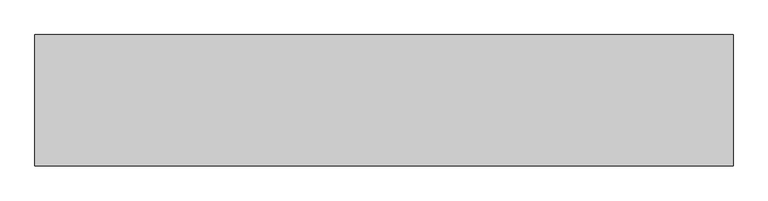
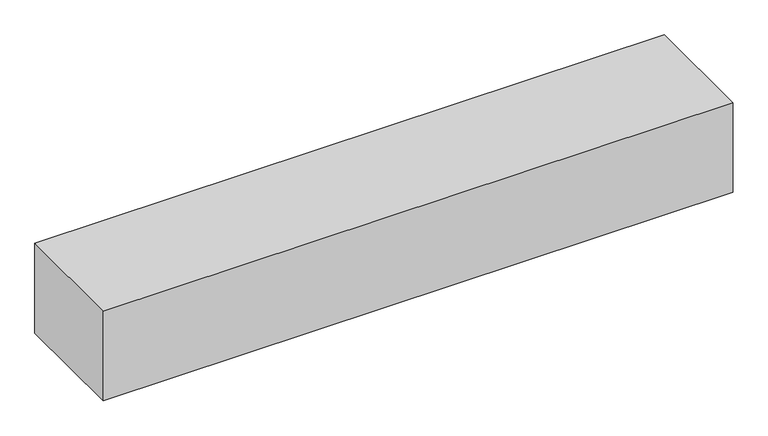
"""IFC4 building model written with IfcOpenShell, lengths in millimetres: geographic element geometry, r 低木密植 : 低木密植."""

from ifc_helpers import new_model, si_unit, origin, origin_with_axes, place, context, project, spatial, polyline, outline, extrude, source, transform, mapped, element, save


def geographic_element_877a311b(model_context):
    return source(origin(), model_context, "Body", "SweptSolid", [
        extrude(outline(polyline([(0.0, 0.0), (0.0, 500.0), (2659.6792207, 500.0), (2659.6792207, 0.0), (0.0, 0.0)])), origin_with_axes(), (0.0, 0.0, 1.0), 400.0),
    ])


if __name__ == "__main__":
    model = new_model("IFC4")
    model_context = context("Model", 3, world=origin())
    ifc_project = project(units=[si_unit("LENGTHUNIT", "METRE", prefix="MILLI")], contexts=[model_context])
    site = spatial("IfcSite", under=ifc_project)
    building = spatial("IfcBuilding", under=site)
    placement = place(None, origin())
    geographic_element_shape = geographic_element_877a311b(model_context)
    element("IfcGeographicElement", 1, ObjectType="r 低木密植 : 低木密植", at=placement, inside=building, context=model_context, shape_type="MappedRepresentation", body=[
        mapped(geographic_element_shape, transform((0.0, 0.0, 0.0), x_axis=(1.0, 0.0, 0.0), y_axis=(0.0, 1.0, 0.0), z_axis=(0.0, 0.0, 1.0))),
    ])
    save(model, "model.ifc")
